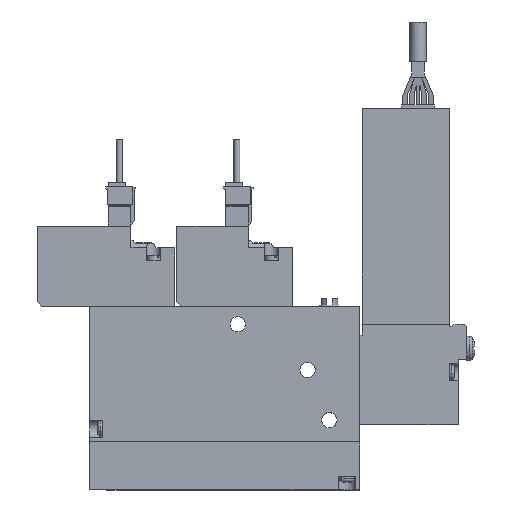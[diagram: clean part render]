
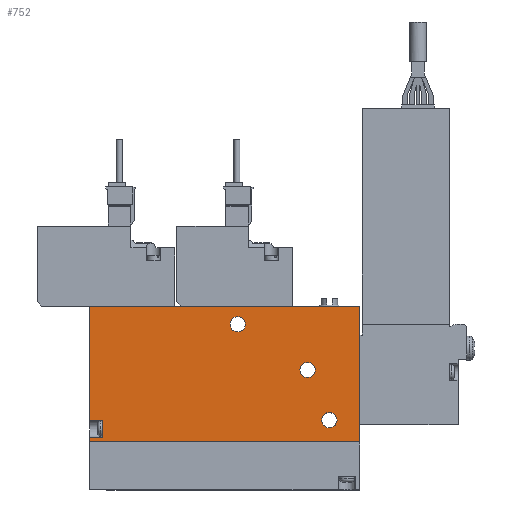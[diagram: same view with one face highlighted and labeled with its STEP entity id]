
A CAD part, top view. The second image highlights one B-rep face of the part: STEP entity #752.
In plain terms, the highlighted planar face has unit normal (0, 0, 1).
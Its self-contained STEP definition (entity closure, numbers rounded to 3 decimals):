
#752=ADVANCED_FACE('',(#1652,#1653,#1654,#1655),#1656,.T.);
#1652=FACE_OUTER_BOUND('',#2666,.T.);
#1653=FACE_BOUND('',#2667,.T.);
#1654=FACE_BOUND('',#2668,.T.);
#1655=FACE_BOUND('',#2669,.T.);
#1656=PLANE('',#2670);
#2666=EDGE_LOOP('',(#5861,#5862,#5863,#5864,#5865,#5866,#5867,#5868));
#2667=EDGE_LOOP('',(#5869));
#2668=EDGE_LOOP('',(#5870));
#2669=EDGE_LOOP('',(#5871));
#2670=AXIS2_PLACEMENT_3D('',#5872,#5873,#5874);
#5861=ORIENTED_EDGE('',*,*,#7442,.T.);
#5862=ORIENTED_EDGE('',*,*,#7446,.F.);
#5863=ORIENTED_EDGE('',*,*,#7371,.T.);
#5864=ORIENTED_EDGE('',*,*,#7447,.T.);
#5865=ORIENTED_EDGE('',*,*,#7438,.T.);
#5866=ORIENTED_EDGE('',*,*,#7448,.T.);
#5867=ORIENTED_EDGE('',*,*,#7402,.T.);
#5868=ORIENTED_EDGE('',*,*,#7363,.T.);
#5869=ORIENTED_EDGE('',*,*,#7336,.F.);
#5870=ORIENTED_EDGE('',*,*,#7326,.F.);
#5871=ORIENTED_EDGE('',*,*,#7449,.F.);
#5872=CARTESIAN_POINT('',(0.0,0.0,5.0));
#5873=DIRECTION('',(0.0,0.0,1.0));
#5874=DIRECTION('',(1.0,0.0,0.0));
#7326=EDGE_CURVE('',#9028,#9028,#9029,.T.);
#7336=EDGE_CURVE('',#9046,#9046,#9047,.T.);
#7363=EDGE_CURVE('',#9100,#9098,#9101,.T.);
#7371=EDGE_CURVE('',#9110,#9114,#9116,.T.);
#7402=EDGE_CURVE('',#9167,#9100,#9168,.T.);
#7438=EDGE_CURVE('',#9223,#9221,#9224,.T.);
#7442=EDGE_CURVE('',#9098,#9229,#9231,.T.);
#7446=EDGE_CURVE('',#9110,#9229,#9237,.T.);
#7447=EDGE_CURVE('',#9114,#9223,#9238,.T.);
#7448=EDGE_CURVE('',#9221,#9167,#9239,.T.);
#7449=EDGE_CURVE('',#9240,#9240,#9241,.T.);
#9028=VERTEX_POINT('',#11816);
#9029=CIRCLE('',#11817,1.75);
#9046=VERTEX_POINT('',#11837);
#9047=CIRCLE('',#11838,1.75);
#9098=VERTEX_POINT('',#11906);
#9100=VERTEX_POINT('',#11909);
#9101=LINE('',#11910,#11911);
#9110=VERTEX_POINT('',#11923);
#9114=VERTEX_POINT('',#11928);
#9116=LINE('',#11931,#11932);
#9167=VERTEX_POINT('',#12055);
#9168=LINE('',#12056,#12057);
#9221=VERTEX_POINT('',#12167);
#9223=VERTEX_POINT('',#12170);
#9224=LINE('',#12171,#12172);
#9229=VERTEX_POINT('',#12178);
#9231=LINE('',#12181,#12182);
#9237=LINE('',#12190,#12191);
#9238=LINE('',#12192,#12193);
#9239=LINE('',#12194,#12195);
#9240=VERTEX_POINT('',#12196);
#9241=CIRCLE('',#12197,1.75);
#11816=CARTESIAN_POINT('',(51.75,16.5,5.0));
#11817=AXIS2_PLACEMENT_3D('',#13716,#13717,#13718);
#11837=CARTESIAN_POINT('',(56.75,5.0,5.0));
#11838=AXIS2_PLACEMENT_3D('',#13737,#13738,#13739);
#11906=CARTESIAN_POINT('',(0.0,31.0,5.0));
#11909=CARTESIAN_POINT('',(62.0,31.0,5.0));
#11910=CARTESIAN_POINT('',(62.0,31.0,5.0));
#11911=VECTOR('',#13782,1.0);
#11923=CARTESIAN_POINT('',(3.0,5.0,5.0));
#11928=CARTESIAN_POINT('',(3.0,1.0,5.0));
#11931=CARTESIAN_POINT('',(3.0,5.0,5.0));
#11932=VECTOR('',#13794,1.0);
#12055=CARTESIAN_POINT('',(62.0,0.0,5.0));
#12056=CARTESIAN_POINT('',(62.0,0.0,5.0));
#12057=VECTOR('',#13841,1.0);
#12167=CARTESIAN_POINT('',(0.0,0.0,5.0));
#12170=CARTESIAN_POINT('',(0.0,1.0,5.0));
#12171=CARTESIAN_POINT('',(0.0,31.0,5.0));
#12172=VECTOR('',#13906,1.0);
#12178=CARTESIAN_POINT('',(0.0,5.0,5.0));
#12181=CARTESIAN_POINT('',(0.0,31.0,5.0));
#12182=VECTOR('',#13912,1.0);
#12190=CARTESIAN_POINT('',(3.0,5.0,5.0));
#12191=VECTOR('',#13918,1.0);
#12192=CARTESIAN_POINT('',(3.0,1.0,5.0));
#12193=VECTOR('',#13919,1.0);
#12194=CARTESIAN_POINT('',(0.0,0.0,5.0));
#12195=VECTOR('',#13920,1.0);
#12196=CARTESIAN_POINT('',(35.75,27.0,5.0));
#12197=AXIS2_PLACEMENT_3D('',#13921,#13922,#13923);
#13716=CARTESIAN_POINT('',(50.0,16.5,5.0));
#13717=DIRECTION('',(0.0,0.0,1.0));
#13718=DIRECTION('',(1.0,0.0,0.0));
#13737=CARTESIAN_POINT('',(55.0,5.0,5.0));
#13738=DIRECTION('',(0.0,0.0,1.0));
#13739=DIRECTION('',(1.0,0.0,0.0));
#13782=DIRECTION('',(-1.0,0.0,0.0));
#13794=DIRECTION('',(0.0,-1.0,0.0));
#13841=DIRECTION('',(0.0,1.0,0.0));
#13906=DIRECTION('',(0.0,-1.0,0.0));
#13912=DIRECTION('',(0.0,-1.0,0.0));
#13918=DIRECTION('',(-1.0,0.0,0.0));
#13919=DIRECTION('',(-1.0,0.0,0.0));
#13920=DIRECTION('',(1.0,0.0,0.0));
#13921=CARTESIAN_POINT('',(34.0,27.0,5.0));
#13922=DIRECTION('',(0.0,0.0,1.0));
#13923=DIRECTION('',(1.0,0.0,0.0));
